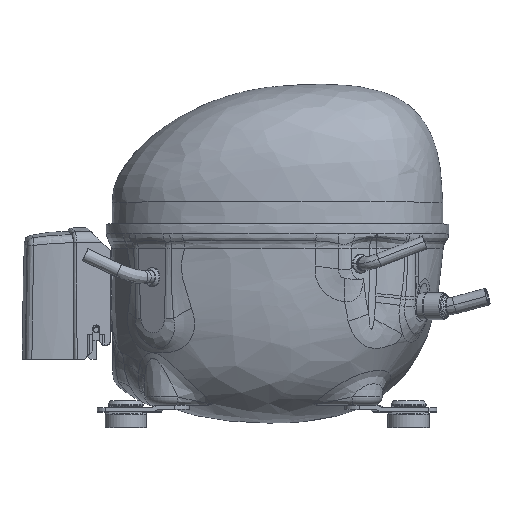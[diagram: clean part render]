
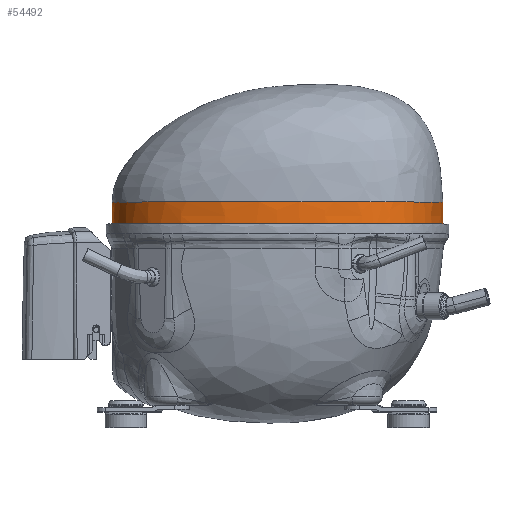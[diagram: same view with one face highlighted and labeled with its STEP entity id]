
A CAD part, top view. The second image highlights one B-rep face of the part: STEP entity #54492.
In plain terms, the highlighted face is a extrusion surface.
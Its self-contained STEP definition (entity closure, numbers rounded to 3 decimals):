
#52446=CARTESIAN_POINT('',(-99.826,-117.5,
0.52));
#52457=CARTESIAN_POINT('',(-99.826,-117.5,
0.52));
#52458=CARTESIAN_POINT('',(-99.782,-117.5,
6.448));
#52459=CARTESIAN_POINT('',(-98.58,-117.509,
18.463));
#52460=CARTESIAN_POINT('',(-94.639,-117.504,
33.083));
#52461=CARTESIAN_POINT('',(-89.649,-117.503,
44.293));
#52462=CARTESIAN_POINT('',(-84.876,-117.502,
52.172));
#52463=CARTESIAN_POINT('',(-79.107,-117.501,
59.433));
#52464=CARTESIAN_POINT('',(-72.038,-117.499,
65.57));
#52465=CARTESIAN_POINT('',(-64.005,-117.497,
70.26));
#52466=CARTESIAN_POINT('',(-52.612,-117.495,
74.857));
#52467=CARTESIAN_POINT('',(-37.713,-117.493,
78.249));
#52468=CARTESIAN_POINT('',(-19.653,-117.491,
80.204));
#52469=CARTESIAN_POINT('',(-1.48,-117.49,
80.588));
#52470=CARTESIAN_POINT('',(16.659,-117.49,
79.154));
#52471=CARTESIAN_POINT('',(34.553,-117.491,
75.978));
#52472=CARTESIAN_POINT('',(52.107,-117.495,
71.038));
#52473=CARTESIAN_POINT('',(68.833,-117.502,
63.247));
#52474=CARTESIAN_POINT('',(80.926,-117.505,
53.567));
#52475=CARTESIAN_POINT('',(88.867,-117.508,
44.09));
#52476=CARTESIAN_POINT('',(93.511,-117.508,
36.029));
#52477=CARTESIAN_POINT('',(96.845,-117.511,
27.357));
#52478=CARTESIAN_POINT('',(98.278,-117.512,
19.689));
#52479=CARTESIAN_POINT('',(98.595,-117.51,
13.544));
#52480=CARTESIAN_POINT('',(98.636,-117.51,
7.676));
#52481=CARTESIAN_POINT('',(98.664,-117.5,
3.354));
#52482=CARTESIAN_POINT('',(98.669,-117.5,
0.52));
#52496=CARTESIAN_POINT('',(98.669,-117.5,
0.52));
#52550=DIRECTION('',(0.,-1.,
0.));
#52551=VECTOR('',#52550,20.464);
#52552=CARTESIAN_POINT('',(98.669,-97.036,0.52));
#52553=LINE('',#52552,#52551);
#52588=DIRECTION('',(0.,-1.,0.));
#52589=VECTOR('',#52588,20.464);
#52590=CARTESIAN_POINT('',(-99.826,-97.036,0.52));
#52591=LINE('',#52590,#52589);
#52592=CARTESIAN_POINT('',(-99.826,-97.036,0.52));
#52593=CARTESIAN_POINT('',(-99.791,-97.036,5.253));
#52594=CARTESIAN_POINT('',(-99.017,-97.036,14.41));
#52595=CARTESIAN_POINT('',(-96.437,-97.036,26.803));
#52596=CARTESIAN_POINT('',(-92.755,-97.036,37.728));
#52597=CARTESIAN_POINT('',(-87.975,-97.036,47.422));
#52598=CARTESIAN_POINT('',(-82.28,-97.036,55.766));
#52599=CARTESIAN_POINT('',(-76.876,-97.036,61.452));
#52600=CARTESIAN_POINT('',(-72.153,-97.036,65.214));
#52601=CARTESIAN_POINT('',(-67.178,-97.036,68.494));
#52602=CARTESIAN_POINT('',(-60.419,-97.036,71.858));
#52603=CARTESIAN_POINT('',(-51.375,-97.036,75.014));
#52604=CARTESIAN_POINT('',(-41.022,-97.036,77.455));
#52605=CARTESIAN_POINT('',(-29.062,-97.036,79.259));
#52606=CARTESIAN_POINT('',(-15.361,-97.036,80.341));
#52607=CARTESIAN_POINT('',(-0.329,-97.036,80.474));
#52608=CARTESIAN_POINT('',(15.717,-97.036,79.215));
#52609=CARTESIAN_POINT('',(31.458,-97.036,76.565));
#52610=CARTESIAN_POINT('',(45.599,-97.036,72.979));
#52611=CARTESIAN_POINT('',(58.026,-97.036,68.396));
#52612=CARTESIAN_POINT('',(68.577,-97.036,62.872));
#52613=CARTESIAN_POINT('',(77.451,-97.036,56.393));
#52614=CARTESIAN_POINT('',(84.906,-97.036,49.128));
#52615=CARTESIAN_POINT('',(89.812,-97.036,42.493));
#52616=CARTESIAN_POINT('',(92.959,-97.036,36.797));
#52617=CARTESIAN_POINT('',(94.916,-97.036,32.376));
#52618=CARTESIAN_POINT('',(96.581,-97.036,27.585));
#52619=CARTESIAN_POINT('',(97.757,-97.036,22.659));
#52620=CARTESIAN_POINT('',(98.392,-97.036,17.315));
#52621=CARTESIAN_POINT('',(98.629,-97.036,11.87));
#52622=CARTESIAN_POINT('',(98.68,-97.036,6.232));
#52623=CARTESIAN_POINT('',(98.668,-97.036,2.444));
#52624=CARTESIAN_POINT('',(98.669,-97.036,0.52));
#52894=VERTEX_POINT('',#52446);
#52897=VERTEX_POINT('',#52496);
#52910=CARTESIAN_POINT('',(-99.826,-97.036,0.52));
#52911=VERTEX_POINT('',#52910);
#52912=CARTESIAN_POINT('',(98.669,-97.036,0.52));
#52913=VERTEX_POINT('',#52912);
#54448=CARTESIAN_POINT('',(-99.826,-97.3,0.52));
#54449=CARTESIAN_POINT('',(-99.791,-97.3,5.253));
#54450=CARTESIAN_POINT('',(-99.017,-97.3,14.41));
#54451=CARTESIAN_POINT('',(-96.437,-97.3,26.803));
#54452=CARTESIAN_POINT('',(-92.755,-97.3,37.728));
#54453=CARTESIAN_POINT('',(-87.975,-97.3,47.422));
#54454=CARTESIAN_POINT('',(-82.28,-97.3,55.766));
#54455=CARTESIAN_POINT('',(-76.876,-97.3,61.452));
#54456=CARTESIAN_POINT('',(-72.153,-97.3,65.214));
#54457=CARTESIAN_POINT('',(-67.178,-97.3,68.494));
#54458=CARTESIAN_POINT('',(-60.419,-97.3,71.858));
#54459=CARTESIAN_POINT('',(-51.375,-97.3,75.014));
#54460=CARTESIAN_POINT('',(-41.022,-97.3,77.455));
#54461=CARTESIAN_POINT('',(-29.062,-97.3,79.259));
#54462=CARTESIAN_POINT('',(-15.361,-97.3,80.341));
#54463=CARTESIAN_POINT('',(-0.329,-97.3,80.474));
#54464=CARTESIAN_POINT('',(15.717,-97.3,79.215));
#54465=CARTESIAN_POINT('',(31.458,-97.3,76.565));
#54466=CARTESIAN_POINT('',(45.599,-97.3,72.979));
#54467=CARTESIAN_POINT('',(58.026,-97.3,68.396));
#54468=CARTESIAN_POINT('',(68.577,-97.3,62.872));
#54469=CARTESIAN_POINT('',(77.451,-97.3,56.393));
#54470=CARTESIAN_POINT('',(84.906,-97.3,49.128));
#54471=CARTESIAN_POINT('',(89.812,-97.3,42.493));
#54472=CARTESIAN_POINT('',(92.959,-97.3,36.797));
#54473=CARTESIAN_POINT('',(94.916,-97.3,32.376));
#54474=CARTESIAN_POINT('',(96.581,-97.3,27.585));
#54475=CARTESIAN_POINT('',(97.757,-97.3,22.659));
#54476=CARTESIAN_POINT('',(98.392,-97.3,17.315));
#54477=CARTESIAN_POINT('',(98.629,-97.3,11.87));
#54478=CARTESIAN_POINT('',(98.68,-97.3,6.232));
#54479=CARTESIAN_POINT('',(98.668,-97.3,2.444));
#54480=CARTESIAN_POINT('',(98.669,-97.3,0.52));
#54482=DIRECTION('',(0.,-1.,0.));
#54483=VECTOR('',#54482,1.);
#54484=SURFACE_OF_LINEAR_EXTRUSION('',#54481,#54483);
#54485=ORIENTED_EDGE('',*,*,#54438,.F.);
#54487=ORIENTED_EDGE('',*,*,#54486,.T.);
#54488=ORIENTED_EDGE('',*,*,#54441,.T.);
#54489=ORIENTED_EDGE('',*,*,#53651,.F.);
#54490=EDGE_LOOP('',(#54485,#54487,#54488,#54489));
#54491=FACE_OUTER_BOUND('',#54490,.F.);
#54492=ADVANCED_FACE('',(#54491),#54484,.F.);
#52483=B_SPLINE_CURVE_WITH_KNOTS('',3,(#52457,#52458,#52459,#52460,#52461,
#52462,#52463,#52464,#52465,#52466,#52467,#52468,#52469,#52470,#52471,#52472,
#52473,#52474,#52475,#52476,#52477,#52478,#52479,#52480,#52481,#52482),
.UNSPECIFIED.,.F.,.F.,(4,1,1,1,1,1,1,1,1,1,1,1,1,1,1,1,1,1,1,1,1,1,1,4),(0.,
0.061,0.124,0.155,0.186,
0.218,0.249,0.28,0.312,
0.375,0.437,0.5,0.563,
0.625,0.688,0.751,0.814,
0.845,0.876,0.908,0.939,
0.955,0.97,1.),.UNSPECIFIED.);
#52625=B_SPLINE_CURVE_WITH_KNOTS('',3,(#52592,#52593,#52594,#52595,#52596,
#52597,#52598,#52599,#52600,#52601,#52602,#52603,#52604,#52605,#52606,#52607,
#52608,#52609,#52610,#52611,#52612,#52613,#52614,#52615,#52616,#52617,#52618,
#52619,#52620,#52621,#52622,#52623,#52624),.UNSPECIFIED.,.F.,.F.,(4,1,1,1,1,1,1,
1,1,1,1,1,1,1,1,1,1,1,1,1,1,1,1,1,1,1,1,1,1,1,4),(0.,0.039,
0.079,0.119,0.159,0.199,
0.239,0.259,0.279,0.32,
0.36,0.4,0.44,0.48,
0.52,0.56,0.6,0.641,
0.681,0.721,0.761,0.801,
0.841,0.86,0.881,0.901,
0.921,0.941,0.962,0.981,1.),
.UNSPECIFIED.);
#53651=EDGE_CURVE('',#52894,#52897,#52483,.T.);
#54438=EDGE_CURVE('',#52911,#52894,#52591,.T.);
#54441=EDGE_CURVE('',#52913,#52897,#52553,.T.);
#54481=B_SPLINE_CURVE_WITH_KNOTS('',3,(#54448,#54449,#54450,#54451,#54452,
#54453,#54454,#54455,#54456,#54457,#54458,#54459,#54460,#54461,#54462,#54463,
#54464,#54465,#54466,#54467,#54468,#54469,#54470,#54471,#54472,#54473,#54474,
#54475,#54476,#54477,#54478,#54479,#54480),.UNSPECIFIED.,.F.,.F.,(4,1,1,1,1,1,1,
1,1,1,1,1,1,1,1,1,1,1,1,1,1,1,1,1,1,1,1,1,1,1,4),(0.,0.039,
0.079,0.119,0.159,0.199,
0.239,0.259,0.279,0.32,
0.36,0.4,0.44,0.48,
0.52,0.56,0.6,0.641,
0.681,0.721,0.761,0.801,
0.841,0.86,0.881,0.901,
0.921,0.941,0.962,0.981,1.),
.UNSPECIFIED.);
#54486=EDGE_CURVE('',#52911,#52913,#52625,.T.);
